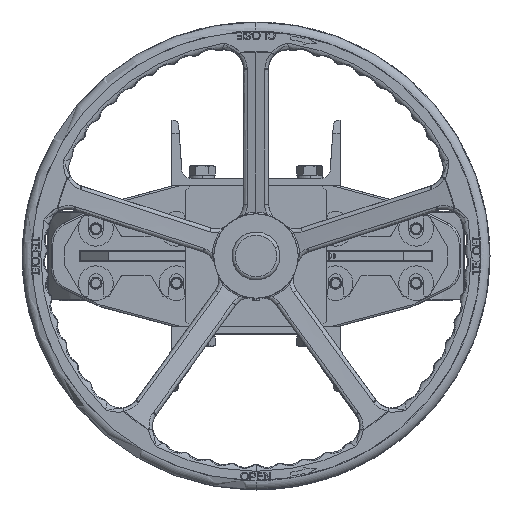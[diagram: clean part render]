
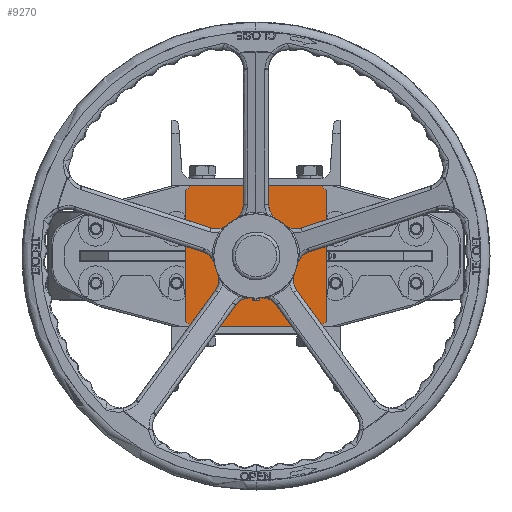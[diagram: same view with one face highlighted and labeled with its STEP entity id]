
A CAD part, front view. The second image highlights one B-rep face of the part: STEP entity #9270.
In plain terms, the highlighted planar face has unit normal (0, -1, 0).
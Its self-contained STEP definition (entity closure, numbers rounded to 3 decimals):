
#2951 = VERTEX_POINT ( 'NONE', #70936 ) ;
#3107 = ORIENTED_EDGE ( 'NONE', *, *, #113433, .T. ) ;
#3361 = ORIENTED_EDGE ( 'NONE', *, *, #115983, .T. ) ;
#3496 = CARTESIAN_POINT ( 'NONE',  ( 72.5, -837., 72.5 ) ) ;
#3861 = CARTESIAN_POINT ( 'NONE',  ( -75., -837., 70. ) ) ;
#3936 = ORIENTED_EDGE ( 'NONE', *, *, #94112, .T. ) ;
#4205 = DIRECTION ( 'NONE',  ( 0.707, 0., -0.707 ) ) ;
#5080 = VERTEX_POINT ( 'NONE', #50334 ) ;
#8994 = DIRECTION ( 'NONE',  ( 1., 0., 0. ) ) ;
#9270 = ADVANCED_FACE ( 'NONE', ( #81256, #46137 ), #116984, .T. ) ;
#10283 = VERTEX_POINT ( 'NONE', #116996 ) ;
#11387 = LINE ( 'NONE', #13127, #21843 ) ;
#12382 = VERTEX_POINT ( 'NONE', #64380 ) ;
#12721 = LINE ( 'NONE', #31170, #58507 ) ;
#13127 = CARTESIAN_POINT ( 'NONE',  ( -72.5, -837., -72.5 ) ) ;
#13597 = DIRECTION ( 'NONE',  ( -0.707, 0., -0.707 ) ) ;
#13598 = DIRECTION ( 'NONE',  ( -0.707, 0., 0.707 ) ) ;
#15026 = LINE ( 'NONE', #96507, #68029 ) ;
#16011 = DIRECTION ( 'NONE',  ( 0., 0., -1. ) ) ;
#16409 = LINE ( 'NONE', #21969, #45697 ) ;
#17937 = CARTESIAN_POINT ( 'NONE',  ( 0., -837., 0. ) ) ;
#21843 = VECTOR ( 'NONE', #4205, 1000. ) ;
#21969 = CARTESIAN_POINT ( 'NONE',  ( -147.5, -837., -2.5 ) ) ;
#28143 = VERTEX_POINT ( 'NONE', #110927 ) ;
#30802 = LINE ( 'NONE', #114029, #68699 ) ;
#31170 = CARTESIAN_POINT ( 'NONE',  ( -75., -837., -75. ) ) ;
#33695 = EDGE_CURVE ( 'NONE', #60551, #79625, #16409, .T. ) ;
#35558 = EDGE_LOOP ( 'NONE', ( #117671, #56776, #85220, #96397, #3936, #94305, #39806, #115679 ) ) ;
#38420 = CARTESIAN_POINT ( 'NONE',  ( 26.5, -837., 0. ) ) ;
#39806 = ORIENTED_EDGE ( 'NONE', *, *, #99378, .T. ) ;
#44467 = CARTESIAN_POINT ( 'NONE',  ( 0., -837., 0. ) ) ;
#45048 = DIRECTION ( 'NONE',  ( 0., 1., 0. ) ) ;
#45697 = VECTOR ( 'NONE', #13597, 1000. ) ;
#46137 = FACE_OUTER_BOUND ( 'NONE', #35558, .T. ) ;
#47092 = EDGE_CURVE ( 'NONE', #94681, #10283, #11387, .T. ) ;
#48382 = DIRECTION ( 'NONE',  ( 1., 0., 0. ) ) ;
#50334 = CARTESIAN_POINT ( 'NONE',  ( 75., -837., 70. ) ) ;
#51088 = EDGE_CURVE ( 'NONE', #79625, #94681, #81366, .T. ) ;
#51252 = DIRECTION ( 'NONE',  ( -1., 0., 0. ) ) ;
#51705 = CARTESIAN_POINT ( 'NONE',  ( -2.5, -837., -147.5 ) ) ;
#55799 = EDGE_CURVE ( 'NONE', #28143, #78683, #103095, .T. ) ;
#56776 = ORIENTED_EDGE ( 'NONE', *, *, #33695, .T. ) ;
#57212 = VERTEX_POINT ( 'NONE', #38420 ) ;
#58507 = VECTOR ( 'NONE', #48382, 1000. ) ;
#60551 = VERTEX_POINT ( 'NONE', #73895 ) ;
#63409 = DIRECTION ( 'NONE',  ( 1., 0., 0. ) ) ;
#64380 = CARTESIAN_POINT ( 'NONE',  ( 70., -837., 75. ) ) ;
#68029 = VECTOR ( 'NONE', #51252, 1000. ) ;
#68699 = VECTOR ( 'NONE', #95019, 1000. ) ;
#70936 = CARTESIAN_POINT ( 'NONE',  ( -26.5, -837., 0. ) ) ;
#72348 = DIRECTION ( 'NONE',  ( 0., -1., 0. ) ) ;
#73895 = CARTESIAN_POINT ( 'NONE',  ( -70., -837., 75. ) ) ;
#76634 = LINE ( 'NONE', #3496, #85146 ) ;
#78683 = VERTEX_POINT ( 'NONE', #113305 ) ;
#79620 = VECTOR ( 'NONE', #16011, 1000. ) ;
#79625 = VERTEX_POINT ( 'NONE', #3861 ) ;
#80294 = VECTOR ( 'NONE', #101932, 1000. ) ;
#81256 = FACE_BOUND ( 'NONE', #100398, .T. ) ;
#81322 = AXIS2_PLACEMENT_3D ( 'NONE', #108637, #72348, #63409 ) ;
#81366 = LINE ( 'NONE', #97471, #79620 ) ;
#85146 = VECTOR ( 'NONE', #13598, 1000. ) ;
#85220 = ORIENTED_EDGE ( 'NONE', *, *, #51088, .T. ) ;
#85799 = CIRCLE ( 'NONE', #99186, 26.5 ) ;
#90474 = DIRECTION ( 'NONE',  ( 0., 1., 0. ) ) ;
#91979 = EDGE_CURVE ( 'NONE', #12382, #60551, #15026, .T. ) ;
#93828 = AXIS2_PLACEMENT_3D ( 'NONE', #44467, #45048, #98593 ) ;
#94112 = EDGE_CURVE ( 'NONE', #10283, #28143, #12721, .T. ) ;
#94305 = ORIENTED_EDGE ( 'NONE', *, *, #55799, .T. ) ;
#94366 = EDGE_CURVE ( 'NONE', #5080, #12382, #76634, .T. ) ;
#94681 = VERTEX_POINT ( 'NONE', #96519 ) ;
#95019 = DIRECTION ( 'NONE',  ( 0., 0., 1. ) ) ;
#95703 = CIRCLE ( 'NONE', #93828, 26.5 ) ;
#96397 = ORIENTED_EDGE ( 'NONE', *, *, #47092, .T. ) ;
#96507 = CARTESIAN_POINT ( 'NONE',  ( -75., -837., 75. ) ) ;
#96519 = CARTESIAN_POINT ( 'NONE',  ( -75., -837., -70. ) ) ;
#97471 = CARTESIAN_POINT ( 'NONE',  ( -75., -837., 75. ) ) ;
#98593 = DIRECTION ( 'NONE',  ( 1., 0., 0. ) ) ;
#99186 = AXIS2_PLACEMENT_3D ( 'NONE', #17937, #90474, #8994 ) ;
#99378 = EDGE_CURVE ( 'NONE', #78683, #5080, #30802, .T. ) ;
#100398 = EDGE_LOOP ( 'NONE', ( #3361, #3107 ) ) ;
#101932 = DIRECTION ( 'NONE',  ( 0.707, 0., 0.707 ) ) ;
#103095 = LINE ( 'NONE', #51705, #80294 ) ;
#108637 = CARTESIAN_POINT ( 'NONE',  ( -75., -837., -75. ) ) ;
#110927 = CARTESIAN_POINT ( 'NONE',  ( 70., -837., -75. ) ) ;
#113305 = CARTESIAN_POINT ( 'NONE',  ( 75., -837., -70. ) ) ;
#113433 = EDGE_CURVE ( 'NONE', #2951, #57212, #85799, .T. ) ;
#114029 = CARTESIAN_POINT ( 'NONE',  ( 75., -837., 75. ) ) ;
#115679 = ORIENTED_EDGE ( 'NONE', *, *, #94366, .T. ) ;
#115983 = EDGE_CURVE ( 'NONE', #57212, #2951, #95703, .T. ) ;
#116984 = PLANE ( 'NONE',  #81322 ) ;
#116996 = CARTESIAN_POINT ( 'NONE',  ( -70., -837., -75. ) ) ;
#117671 = ORIENTED_EDGE ( 'NONE', *, *, #91979, .T. ) ;
